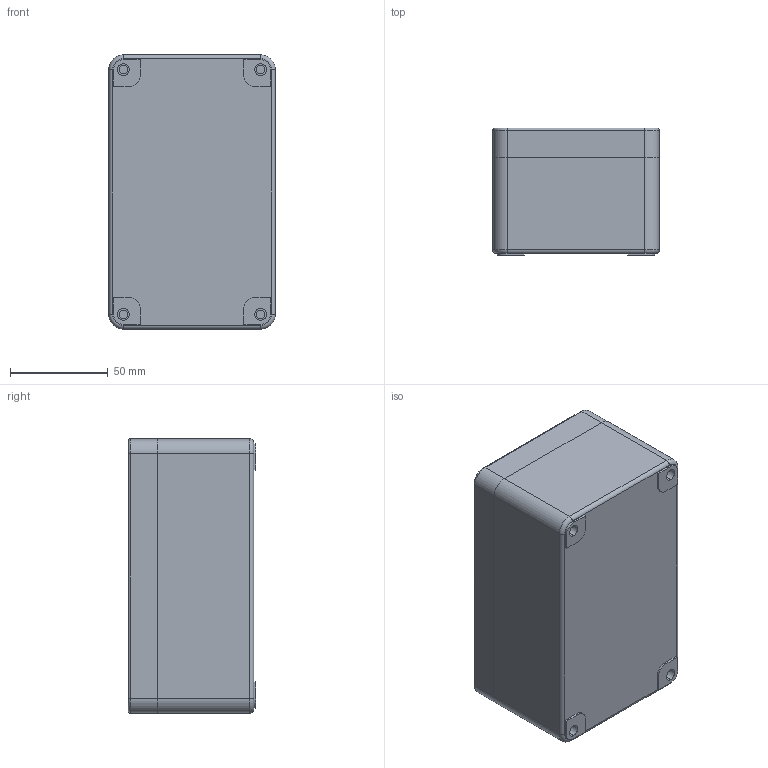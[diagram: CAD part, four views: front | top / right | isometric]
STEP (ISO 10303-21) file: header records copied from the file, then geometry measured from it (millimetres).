
FILE_DESCRIPTION (( 'STEP AP214' ), '1' );
FILE_NAME ('040C0814-6P3C.STEP', '2018-08-16T13:43:12', ( '' ), ( '' ), 'SwSTEP 2.0', 'SolidWorks 2013', '' );
FILE_SCHEMA (( 'AUTOMOTIVE_DESIGN' ));
Length unit declared in the file: millimetre
Products named in the file (1): 040C0814-6P3C
Bounding box: 85 x 65 x 140 mm (x, y, z)
Volume: 170800 mm3; surface area: 107722 mm2
Topology: 6 solids, 6 shells, 577 faces, 1423 edges, 898 vertices
Faces by surface type: plane 261, cylinder 236, torus 80
Entity records: 23073 total; most frequent: DIRECTION 3112, CARTESIAN_POINT 2947, ORIENTED_EDGE 2846, EDGE_CURVE 1423, AXIS2_PLACEMENT_3D 1127, VERTEX_POINT 898, VECTOR 858, LINE 858
